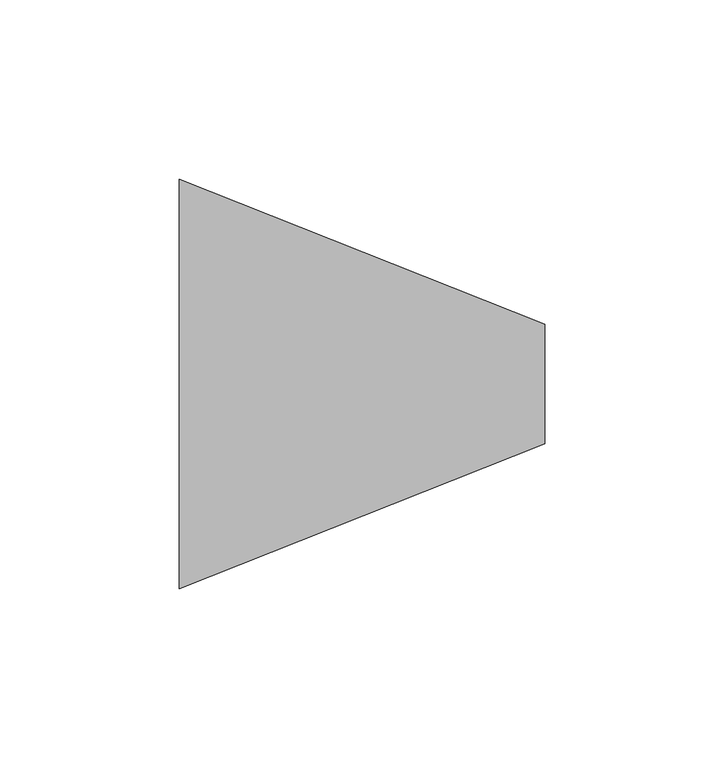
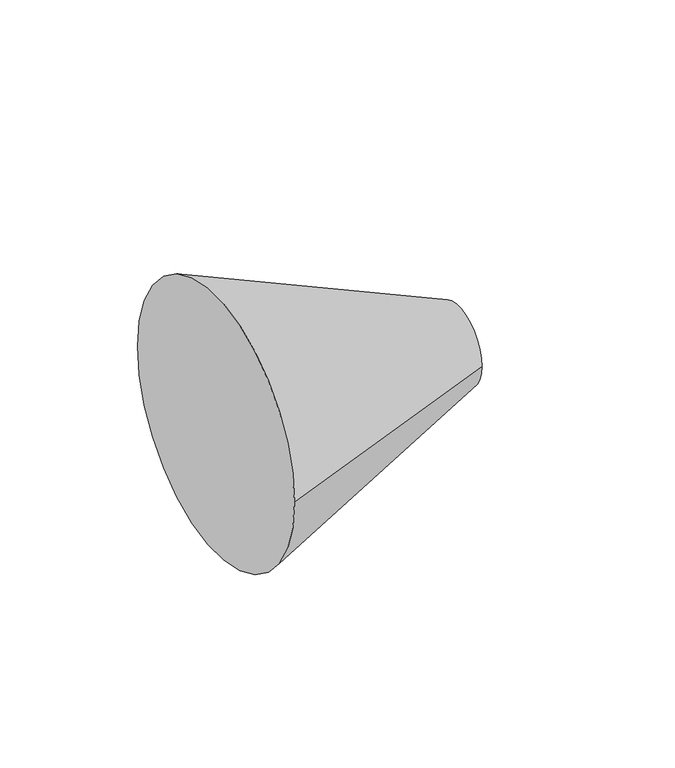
"""IFC4 building model written with IfcOpenShell, lengths in millimetres: pipe fitting geometry, 过渡件 - 常规 : 标准."""

from ifc_helpers import new_model, si_unit, frame, origin, place, context, project, spatial, polyline, circle_curve, source, transform, mapped, element, save
from ifc_brep_helpers import plane_surface, revolved_surface, advanced_brep


def pipe_fitting_a8c3ae59(model_context):
    return source(origin(), model_context, "Body", "AdvancedBrep", [
        advanced_brep(
        [(102.0, 16.7, 0.0), (102.0, -16.7, 0.0), (0.0, 57.15, 0.0), (0.0, -57.15, 0.0)],
        [
            (0, 1, circle_curve(frame((102.0, 0.0, 0.0), z_axis=(1.0, 0.0, 0.0), x_axis=(0.0, -1.0, 0.0)), 16.7)),
            (1, 0, circle_curve(frame((102.0, 0.0, 0.0), z_axis=(1.0, 0.0, 0.0), x_axis=(0.0, 1.0, 0.0)), 16.7)),
            (2, 3, circle_curve(frame((0.0, 0.0, 0.0), z_axis=(-1.0, 0.0, 0.0), x_axis=(0.0, 1.0, 0.0)), 57.15)),
            (3, 2, circle_curve(frame((0.0, 0.0, 0.0), z_axis=(-1.0, 0.0, 0.0), x_axis=(0.0, -1.0, 0.0)), 57.15)),
            (2, 0),
            (1, 3),
        ],
        [
            plane_surface(frame((102.0, 0.0, 0.0), z_axis=(1.0, 0.0, 0.0), x_axis=(0.0, 0.0, -1.0))),
            plane_surface(frame((0.0, 0.0, 0.0), z_axis=(-1.0, 0.0, 0.0), x_axis=(0.0, 0.0, -1.0))),
            revolved_surface(polyline([(102.0, 16.70000001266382, 0.0), (0.0, 57.15, 0.0)]), (144.1112485, 0.0, 0.0), (-1.0, 0.0, 0.0)),
            revolved_surface(polyline([(102.0, -16.70000001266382, 0.0), (0.0, -57.15, 0.0)]), (144.1112485, 0.0, 0.0), (-1.0, 0.0, 0.0)),
        ],
        [
            (0, [[1, 2]]),
            (1, [[3, 4]]),
            (2, [[5, -2, 6, -3]]),
            (3, [[-6, -1, -5, -4]]),
        ],
    ),
    ])


if __name__ == "__main__":
    model = new_model("IFC4")
    model_context = context("Model", 3, world=origin())
    ifc_project = project(units=[si_unit("LENGTHUNIT", "METRE", prefix="MILLI")], contexts=[model_context])
    site = spatial("IfcSite", under=ifc_project)
    building = spatial("IfcBuilding", under=site)
    placement = place(None, origin())
    pipe_fitting_shape = pipe_fitting_a8c3ae59(model_context)
    element("IfcPipeFitting", 1, ObjectType="过渡件 - 常规 : 标准", at=placement, inside=building, context=model_context, shape_type="MappedRepresentation", body=[
        mapped(pipe_fitting_shape, transform((0.0, 0.0, 0.0), x_axis=(1.0, 0.0, 0.0), y_axis=(0.0, 1.0, 0.0), z_axis=(0.0, 0.0, 1.0))),
    ])
    save(model, "model.ifc")
